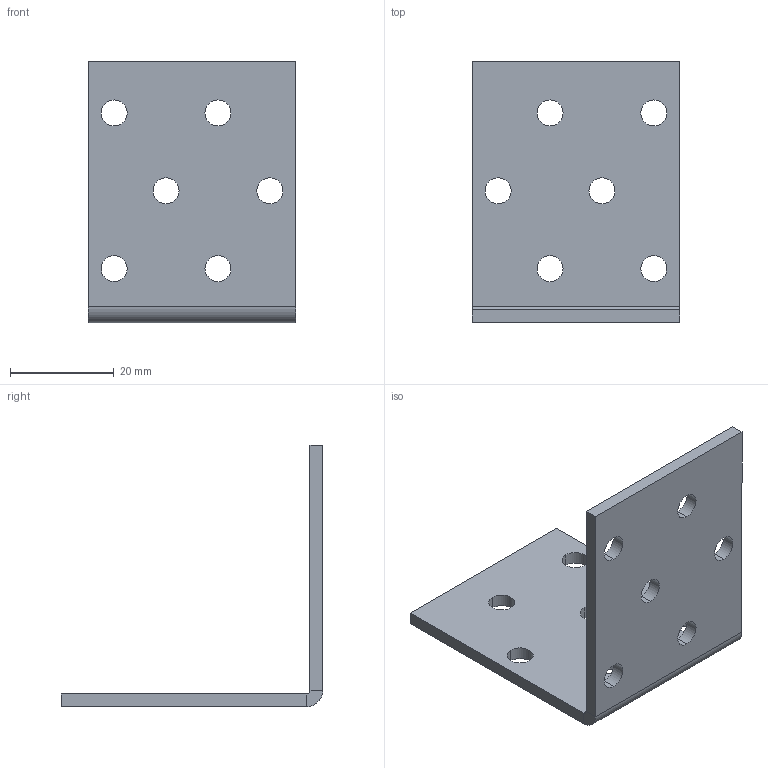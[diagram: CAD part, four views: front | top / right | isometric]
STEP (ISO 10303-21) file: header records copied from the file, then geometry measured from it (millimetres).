
FILE_DESCRIPTION (( 'STEP AP203' ), '1' );
FILE_NAME ('10523.STEP', '2021-02-23T12:36:31', ( '' ), ( '' ), 'SwSTEP 2.0', 'SolidWorks 2013', '' );
FILE_SCHEMA (( 'CONFIG_CONTROL_DESIGN' ));
Length unit declared in the file: millimetre
Products named in the file (1): 10523
Bounding box: 40 x 50.46 x 50.46 mm (x, y, z)
Volume: 9168 mm3; surface area: 8493.5 mm2
Topology: 1 solids, 1 shells, 38 faces, 100 edges, 64 vertices
Faces by surface type: cylinder 26, plane 12
Entity records: 1319 total; most frequent: DIRECTION 230, CARTESIAN_POINT 203, ORIENTED_EDGE 200, EDGE_CURVE 100, AXIS2_PLACEMENT_3D 91, VERTEX_POINT 64, EDGE_LOOP 62, CIRCLE 52
